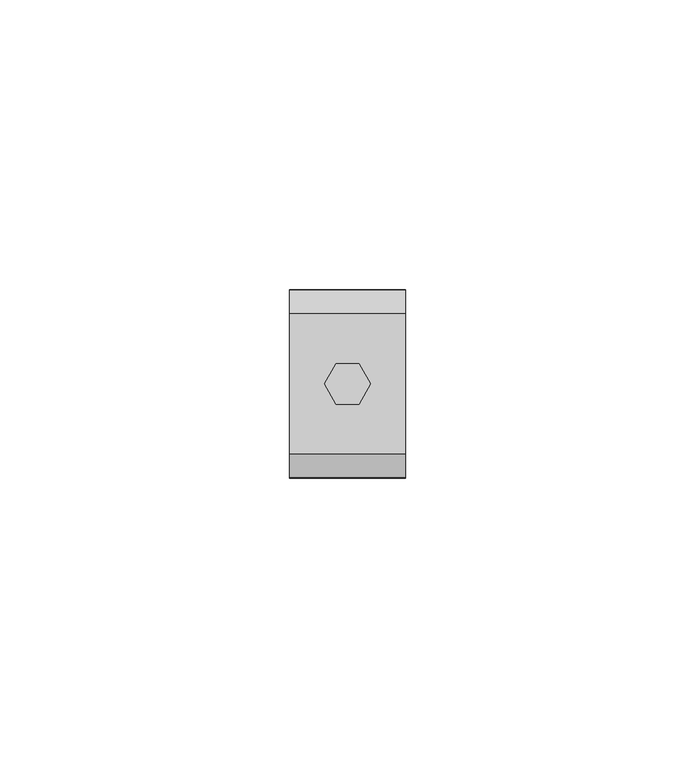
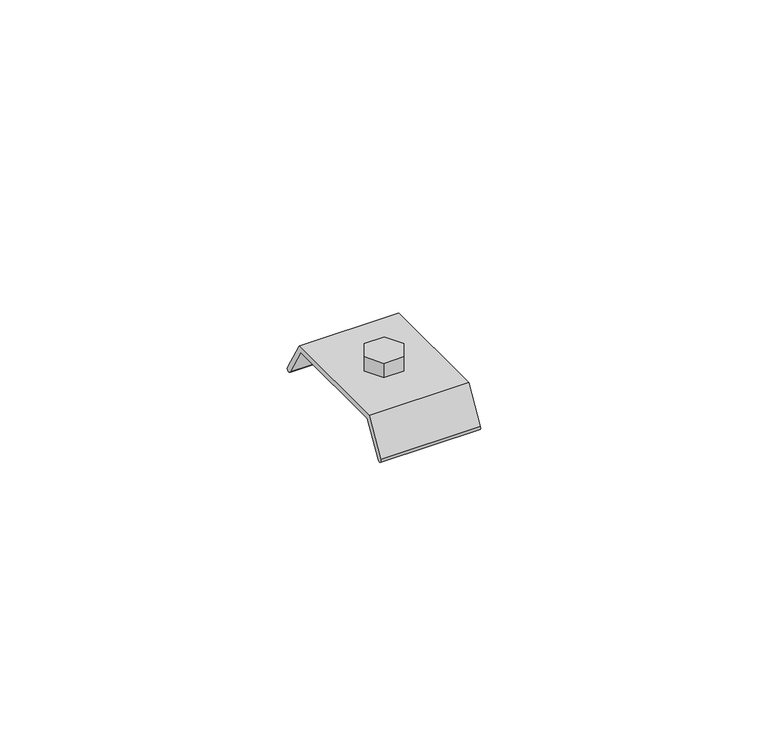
"""IFC4 building model written with IfcOpenShell, lengths in millimetres: beam geometry, 3D_Metalcraft Translucent Fixing_MC700 : 3D_Metalcraft Translucent Fixing_MC700."""

import ifcopenshell
import ifcopenshell.guid

model = None  # the IFC model being written
_history = None  # IfcOwnerHistory: only IFC2X3 demands one
_inside = {}  # id of a spatial element -> (the spatial element, [elements in it])
_under = {}  # id of a project, library or spatial element -> (it, [spatial elements below it])
_declared = {}  # id of a project -> (the project, [libraries it declares])
_typed = {}  # id of a type object -> (the type object, [elements of that type])
_made_of = {}  # id of a material, layer set ... -> (it, [elements and type objects made of it])


def new_model(schema):
    """Start an empty IFC model of exactly this schema.

    Asked for "IFC4X3", IfcOpenShell would pick the latest addendum, in which some entities
    have other attributes; the version numbers below select the first issue.
    IFC2X3 requires an IfcOwnerHistory on every rooted entity: one is made here for all.
    """
    global model, _history
    if schema == "IFC4X3":
        model = ifcopenshell.file(schema_version=(4, 3, 0, 0))
    else:
        model = ifcopenshell.file(schema=schema)
    _inside.clear()
    _under.clear()
    _declared.clear()
    _typed.clear()
    _made_of.clear()
    _history = None
    if model.schema == "IFC2X3":
        org = make("IfcOrganization", Name="unknown")
        user = make(
            "IfcPersonAndOrganization",
            ThePerson=make("IfcPerson", FamilyName="unknown"),
            TheOrganization=org,
        )
        app = make(
            "IfcApplication",
            ApplicationDeveloper=org,
            Version="unknown",
            ApplicationFullName="unknown",
            ApplicationIdentifier="unknown",
        )
        _history = make(
            "IfcOwnerHistory",
            OwningUser=user,
            OwningApplication=app,
            ChangeAction="ADDED",
            CreationDate=0,
        )
    return model


def make(cls, **values):
    """One entity of the class cls with the attributes given. An attribute that is None is left unset."""
    return model.create_entity(
        cls, **{name: value for name, value in values.items() if value is not None}
    )


def rooted(cls, **values):
    """An entity with a GlobalId (a new one), such as an element, a storey or a relation."""
    return make(cls, GlobalId=ifcopenshell.guid.new(), OwnerHistory=_history, **values)


def si_unit(unit_type, name, prefix=None):
    """IfcSIUnit, for example si_unit("LENGTHUNIT", "METRE", prefix="MILLI")."""
    return make("IfcSIUnit", UnitType=unit_type, Prefix=prefix, Name=name)


def assignment(units):
    """IfcUnitAssignment: the units of a project."""
    return None if units is None else make("IfcUnitAssignment", Units=units)


def point(xyz):
    """IfcCartesianPoint."""
    return None if xyz is None else make("IfcCartesianPoint", Coordinates=xyz)


def direction(xyz):
    """IfcDirection."""
    return None if xyz is None else make("IfcDirection", DirectionRatios=xyz)


def frame(location, z_axis=None, x_axis=None):
    """IfcAxis2Placement3D, a coordinate frame: its origin and axes. An axis left out is left unset."""
    return make(
        "IfcAxis2Placement3D",
        Location=point(location),
        Axis=direction(z_axis),
        RefDirection=direction(x_axis),
    )


def frame_2d(location, x_axis=None):
    """IfcAxis2Placement2D, a coordinate frame in the plane: its origin and x axis."""
    return make(
        "IfcAxis2Placement2D", Location=point(location), RefDirection=direction(x_axis)
    )


def origin():
    """The frame at (0, 0, 0) with its axes left unset."""
    return frame((0.0, 0.0, 0.0))


def place(relative_to, where):
    """IfcLocalPlacement: puts the frame where relative to a parent placement (None: the world)."""
    return make(
        "IfcLocalPlacement", PlacementRelTo=relative_to, RelativePlacement=where
    )


def context(
    kind, dimensions, precision=None, world=None, true_north=None, identifier=None
):
    """IfcGeometricRepresentationContext, for example the 3D "Model" context."""
    return make(
        "IfcGeometricRepresentationContext",
        ContextIdentifier=identifier,
        ContextType=kind,
        CoordinateSpaceDimension=dimensions,
        Precision=precision,
        WorldCoordinateSystem=world,
        TrueNorth=true_north,
    )


def project(units=None, contexts=None):
    """IfcProject with its units and contexts."""
    return rooted(
        "IfcProject",
        Name="project",
        RepresentationContexts=contexts,
        UnitsInContext=assignment(units),
    )


def spatial(cls, under=None, at=None, **own):
    """A site, building, storey or space (cls), placed at a placement, below another one or the project."""
    s = rooted(cls, ObjectPlacement=at, **own)
    if under is not None:
        _under.setdefault(under.id(), (under, []))[1].append(s)
    return s


def polyline(points):
    """IfcPolyline through the points."""
    return make("IfcPolyline", Points=[point(p) for p in points])


def circle_curve(where, radius):
    """IfcCircle in the frame where."""
    return make("IfcCircle", Position=where, Radius=radius)


def trimmed(basis, trim1, trim2, sense, master):
    """IfcTrimmedCurve: the piece of a basis curve between two trims."""
    return make(
        "IfcTrimmedCurve",
        BasisCurve=basis,
        Trim1=trim1,
        Trim2=trim2,
        SenseAgreement=sense,
        MasterRepresentation=master,
    )


def segment(curve, same_sense, transition):
    """IfcCompositeCurveSegment."""
    return make(
        "IfcCompositeCurveSegment",
        Transition=transition,
        SameSense=same_sense,
        ParentCurve=curve,
    )


def composite_curve(segments, self_intersect=None):
    """IfcCompositeCurve: segments joined end to end."""
    return make("IfcCompositeCurve", Segments=segments, SelfIntersect=self_intersect)


def outline(outer, holes=None, kind="AREA"):
    """IfcArbitraryClosedProfileDef: a profile drawn as a closed curve; with holes, ...WithVoids."""
    if holes is None:
        return make("IfcArbitraryClosedProfileDef", ProfileType=kind, OuterCurve=outer)
    return make(
        "IfcArbitraryProfileDefWithVoids",
        ProfileType=kind,
        OuterCurve=outer,
        InnerCurves=holes,
    )


def extrude(swept, where, along, depth):
    """IfcExtrudedAreaSolid: the profile swept, set in the frame where, extruded along a direction by depth."""
    return make(
        "IfcExtrudedAreaSolid",
        SweptArea=swept,
        Position=where,
        ExtrudedDirection=direction(along),
        Depth=depth,
    )


def shape(context_of_items, identifier, shape_type, items):
    """IfcShapeRepresentation: the items that make up one representation, for example the "Body"."""
    return make(
        "IfcShapeRepresentation",
        ContextOfItems=context_of_items,
        RepresentationIdentifier=identifier,
        RepresentationType=shape_type,
        Items=items,
    )


def source(mapping_origin, context_of_items, identifier, shape_type, items):
    """IfcRepresentationMap: a shape defined once, which mapped items show again and again."""
    return make(
        "IfcRepresentationMap",
        MappingOrigin=mapping_origin,
        MappedRepresentation=shape(context_of_items, identifier, shape_type, items),
    )


def transform(
    local_origin,
    x_axis=None,
    y_axis=None,
    z_axis=None,
    scale=None,
    scale2=None,
    scale3=None,
    uniform=True,
):
    """IfcCartesianTransformationOperator3D, or its non-uniform kind. x_axis, y_axis, z_axis: its Axis1, 2, 3."""
    if uniform:
        return make(
            "IfcCartesianTransformationOperator3D",
            Axis1=direction(x_axis),
            Axis2=direction(y_axis),
            LocalOrigin=point(local_origin),
            Scale=scale,
            Axis3=direction(z_axis),
        )
    return make(
        "IfcCartesianTransformationOperator3DnonUniform",
        Axis1=direction(x_axis),
        Axis2=direction(y_axis),
        LocalOrigin=point(local_origin),
        Scale=scale,
        Axis3=direction(z_axis),
        Scale2=scale2,
        Scale3=scale3,
    )


def mapped(mapping_source, mapping_target):
    """IfcMappedItem: shows the shape of a source again, moved by a transform."""
    return make(
        "IfcMappedItem", MappingSource=mapping_source, MappingTarget=mapping_target
    )


def made_of(thing, what):
    """Note that an element or type object is made of a material, layer set ...; save() writes the relation."""
    if what is not None:
        _made_of.setdefault(what.id(), (what, []))[1].append(thing)
    return thing


def element(
    cls,
    number,
    at=None,
    inside=None,
    cuts=None,
    type_object=None,
    material=None,
    context=None,
    identifier="Body",
    shape_type=None,
    held_by="IfcProductDefinitionShape",
    body=None,
    shapes=None,
    **own,
):
    """One element of the class cls, such as IfcWall. Its Tag is "e" and its number.

    at: its placement. inside: the storey or other place that contains it. cuts: it is an
    opening in that element (IfcRelVoidsElement). A single representation is given by context,
    identifier, shape_type and body (its items); several are given by shapes. held_by: the class
    of the entity that holds the representations. save() writes the other relations.
    """
    e = rooted(cls, Tag="e%d" % number, ObjectPlacement=at, **own)
    if body is not None:
        shapes = [shape(context, identifier, shape_type, body)]
    if shapes is not None:
        e.Representation = make(held_by, Representations=shapes)
    if inside is not None:
        _inside.setdefault(inside.id(), (inside, []))[1].append(e)
    if cuts is not None:
        rooted(
            "IfcRelVoidsElement", RelatingBuildingElement=cuts, RelatedOpeningElement=e
        )
    if type_object is not None:
        _typed.setdefault(type_object.id(), (type_object, []))[1].append(e)
    return made_of(e, material)


def aggregate(whole, parts):
    """IfcRelAggregates: a whole, such as a stair, and the parts it consists of."""
    return rooted("IfcRelAggregates", RelatingObject=whole, RelatedObjects=parts)


def save(model, path):
    """Write the relations noted so far, then the file.

    IfcRelAggregates (storeys below a building ...), IfcRelContainedInSpatialStructure (elements
    in a storey), IfcRelDefinesByType, IfcRelAssociatesMaterial and IfcRelDeclares: one each for
    every whole, place, type object, material and project.
    """
    for whole, parts in _under.values():
        aggregate(whole, parts)
    for where, things in _inside.values():
        rooted(
            "IfcRelContainedInSpatialStructure",
            RelatedElements=things,
            RelatingStructure=where,
        )
    for kind, things in _typed.values():
        rooted("IfcRelDefinesByType", RelatedObjects=things, RelatingType=kind)
    for what, things in _made_of.values():
        rooted("IfcRelAssociatesMaterial", RelatedObjects=things, RelatingMaterial=what)
    for by, libraries in _declared.values():
        rooted("IfcRelDeclares", RelatingContext=by, RelatedDefinitions=libraries)
    model.write(path)


def beam_ff1f1038(model_context):
    return source(origin(), model_context, "Body", "SweptSolid", [
        extrude(outline(polyline([(2.0, 3.4641016), (4.0, 0.0), (2.0, -3.4641016), (-2.0, -3.4641016), (-4.0, 0.0), (-2.0, 3.4641016), (2.0, 3.4641016)])), frame((0.0, 0.0, -25.7896475), z_axis=(0.0, 0.0, 1.0), x_axis=(1.0, 0.0, 0.0)), (0.0, 0.0, 1.0), 3.0),
        extrude(outline(composite_curve([segment(polyline([(11.5745116, -26.7896475), (-11.5745116, -26.7896475), (-15.3314567, -33.2332689)]), True, "CONTINUOUS"), segment(trimmed(circle_curve(frame_2d((-15.7633997, -32.9814251)), 0.5), [point((-15.3314567, -33.2332689))], [point((-16.1953426, -32.7295813))], False, "CARTESIAN"), True, "CONTINUOUS"), segment(polyline([(-16.1953426, -32.7295813), (-12.1490231, -25.7896475), (12.1490231, -25.7896475), (16.1953426, -32.7295813)]), True, "CONTINUOUS"), segment(trimmed(circle_curve(frame_2d((15.7633997, -32.9814251)), 0.5), [point((16.1953426, -32.7295813))], [point((15.3314567, -33.2332689))], False, "CARTESIAN"), True, "CONTINUOUS"), segment(polyline([(15.3314567, -33.2332689), (11.5745116, -26.7896475)]), True, "CONTINUOUS")], self_intersect=False)), frame((-10.003063, 0.0, 0.0), z_axis=(1.0, 0.0, 0.0), x_axis=(0.0, 1.0, 0.0)), (0.0, 0.0, 1.0), 20.0061261),
    ])


if __name__ == "__main__":
    model = new_model("IFC4")
    model_context = context("Model", 3, world=origin())
    ifc_project = project(units=[si_unit("LENGTHUNIT", "METRE", prefix="MILLI")], contexts=[model_context])
    site = spatial("IfcSite", under=ifc_project)
    building = spatial("IfcBuilding", under=site)
    placement = place(None, origin())
    beam_shape = beam_ff1f1038(model_context)
    element("IfcBeam", 1, ObjectType="3D_Metalcraft Translucent Fixing_MC700 : 3D_Metalcraft Translucent Fixing_MC700", at=placement, inside=building, context=model_context, shape_type="MappedRepresentation", body=[
        mapped(beam_shape, transform((0.0, 0.0, 0.0), x_axis=(1.0, 0.0, 0.0), y_axis=(0.0, 1.0, 0.0), z_axis=(0.0, 0.0, 1.0))),
    ])
    save(model, "model.ifc")
